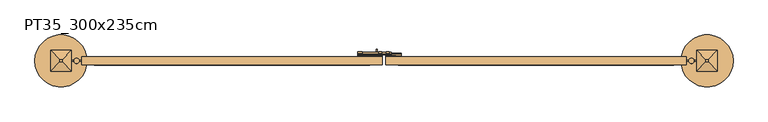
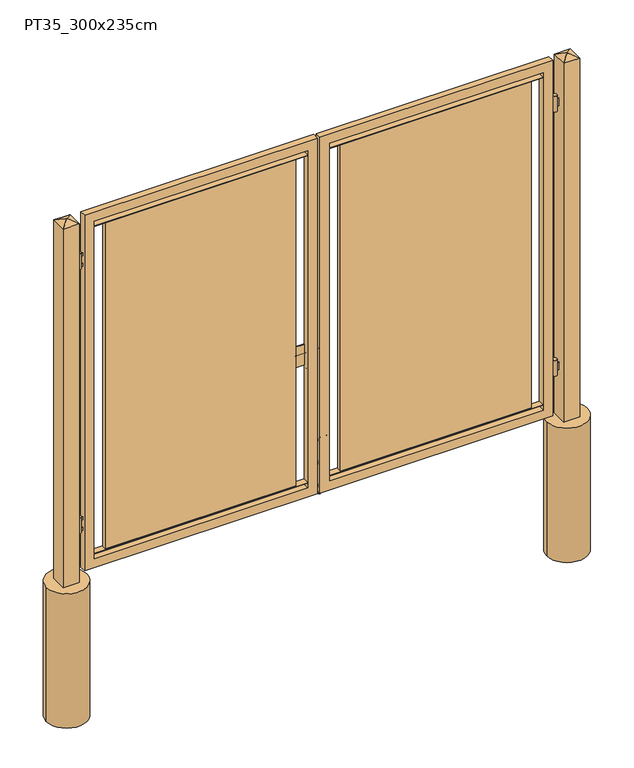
"""IFC4 building model written with IfcOpenShell, lengths in millimetres: door geometry, FDE_PT34_PT35_Portão_UsoExterno_GradilEletrofundido_2Folhas : PT35_300x235cm."""

from ifc_helpers import new_model, si_unit, point, frame, frame_2d, origin, place, context, project, spatial, polyline, circle_curve, ellipse_curve, trimmed, segment, composite_curve, outline, extrude, faceted_brep, source, transform, mapped, element, save
from ifc_brep_helpers import plane_surface, cylinder_surface, revolved_surface, advanced_brep


def pt35_300x235cm_00b904e5(model_context):
    return source(origin(), model_context, "Body", "SolidModel", [
        extrude(outline(composite_curve([segment(polyline([(26.15, 25.0), (7.5, 25.0), (7.5, 27.0), (24.15, 27.0), (24.15, 31.25)]), True, "CONTINUOUS"), segment(trimmed(circle_curve(frame_2d((32.5, 31.25)), 8.35), [point((24.15, 31.25))], [point((40.8382427, 31.6929536))], False, "CARTESIAN"), True, "CONTINUOUS"), segment(polyline([(40.8382427, 31.6929536), (40.8382427, 27.0), (57.5, 27.0), (57.5, 25.0), (38.8345317, 25.0), (38.8345317, 31.6929536)]), True, "CONTINUOUS"), segment(trimmed(circle_curve(frame_2d((32.5, 31.25)), 6.35), [point((38.8345317, 31.6929536))], [point((26.15, 31.25))], True, "CARTESIAN"), True, "CONTINUOUS"), segment(polyline([(26.15, 31.25), (26.15, 25.0)]), True, "CONTINUOUS")], self_intersect=False)), frame((0.0, 0.0, 320.0), z_axis=(0.0, 0.0, 1.0), x_axis=(1.0, 0.0, 0.0)), (0.0, 0.0, 1.0), 20.0),
        extrude(outline(composite_curve([segment(polyline([(26.15, 25.0), (7.5, 25.0), (7.5, 27.0), (24.15, 27.0), (24.15, 31.25)]), True, "CONTINUOUS"), segment(trimmed(circle_curve(frame_2d((32.5, 31.25)), 8.35), [point((24.15, 31.25))], [point((40.8382427, 31.6929536))], False, "CARTESIAN"), True, "CONTINUOUS"), segment(polyline([(40.8382427, 31.6929536), (40.8382427, 27.0), (57.5, 27.0), (57.5, 25.0), (38.8345317, 25.0), (38.8345317, 31.6929536)]), True, "CONTINUOUS"), segment(trimmed(circle_curve(frame_2d((32.5, 31.25)), 6.35), [point((38.8345317, 31.6929536))], [point((26.15, 31.25))], True, "CARTESIAN"), True, "CONTINUOUS"), segment(polyline([(26.15, 31.25), (26.15, 25.0)]), True, "CONTINUOUS")], self_intersect=False)), frame((0.0, 0.0, 170.0), z_axis=(0.0, 0.0, 1.0), x_axis=(1.0, 0.0, 0.0)), (0.0, 0.0, 1.0), 20.0),
        extrude(outline(composite_curve([segment(polyline([(26.15, 25.0), (7.5, 25.0), (7.5, 27.0), (24.15, 27.0), (24.15, 31.25)]), True, "CONTINUOUS"), segment(trimmed(circle_curve(frame_2d((32.5, 31.25)), 8.35), [point((24.15, 31.25))], [point((40.8382427, 31.6929536))], False, "CARTESIAN"), True, "CONTINUOUS"), segment(polyline([(40.8382427, 31.6929536), (40.8382427, 27.0), (57.5, 27.0), (57.5, 25.0), (38.8345317, 25.0), (38.8345317, 31.6929536)]), True, "CONTINUOUS"), segment(trimmed(circle_curve(frame_2d((32.5, 31.25)), 6.35), [point((38.8345317, 31.6929536))], [point((26.15, 31.25))], True, "CARTESIAN"), True, "CONTINUOUS"), segment(polyline([(26.15, 31.25), (26.15, 25.0)]), True, "CONTINUOUS")], self_intersect=False)), frame((0.0, 0.0, 20.0), z_axis=(0.0, 0.0, 1.0), x_axis=(1.0, 0.0, 0.0)), (0.0, 0.0, 1.0), 20.0),
        advanced_brep(
        [(26.15, 31.25, -20.0), (38.85, 31.25, -20.0), (38.85, 31.25, 343.65), (26.15, 31.25, 356.35), (82.5, 31.25, 356.35), (82.5, 31.25, 343.65)],
        [
            (0, 1, circle_curve(frame((32.5, 31.25, -20.0), z_axis=(0.0, 0.0, -1.0), x_axis=(1.0, 0.0, 0.0)), 6.35)),
            (1, 0, circle_curve(frame((32.5, 31.25, -20.0), z_axis=(0.0, 0.0, -1.0), x_axis=(1.0, 0.0, 0.0)), 6.35)),
            (1, 2),
            (2, 3, ellipse_curve(frame((32.5, 31.25, 350.0), z_axis=(-0.707106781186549, 0.0, -0.7071067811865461), x_axis=(0.7071067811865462, 0.0, -0.7071067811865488)), 8.9802561, 6.35)),
            (3, 0),
            (3, 2, ellipse_curve(frame((32.5, 31.25, 350.0), z_axis=(-0.707106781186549, 0.0, -0.7071067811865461), x_axis=(0.7071067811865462, 0.0, -0.7071067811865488)), 8.9802561, 6.35)),
            (4, 5, circle_curve(frame((82.5, 31.25, 350.0), z_axis=(1.0, 0.0, 0.0), x_axis=(0.0, 0.0, -1.0)), 6.35)),
            (5, 4, circle_curve(frame((82.5, 31.25, 350.0), z_axis=(1.0, 0.0, 0.0), x_axis=(0.0, 0.0, -1.0)), 6.35)),
            (2, 5),
            (4, 3),
        ],
        [
            plane_surface(frame((32.5, 31.25, -20.0), z_axis=(0.0, 0.0, -1.0), x_axis=(0.0, 1.0, 0.0))),
            cylinder_surface(frame((32.5, 31.25, -20.0), z_axis=(0.0, 0.0, -1.0), x_axis=(1.0, 0.0, 0.0)), 6.35),
            plane_surface(frame((82.5, 31.25, 350.0), z_axis=(1.0, 0.0, 0.0), x_axis=(0.0, 1.0, 0.0))),
            cylinder_surface(frame((32.5, 31.25, 350.0), z_axis=(-1.0, 0.0, 0.0), x_axis=(0.0, 0.0, -1.0)), 6.35),
        ],
        [
            (0, [[1, 2]]),
            (1, [[3, 4, 5, -2]]),
            (1, [[-5, 6, -3, -1]]),
            (2, [[7, 8]]),
            (3, [[9, -7, 10, -4]]),
            (3, [[-10, -8, -9, -6]]),
        ],
    ),
        extrude(outline(polyline([(57.5, 25.0), (57.5, 20.0), (7.5, 20.0), (7.5, 25.0), (57.5, 25.0)])), frame((0.0, 0.0, 20.0), z_axis=(0.0, 0.0, 1.0), x_axis=(1.0, 0.0, 0.0)), (0.0, 0.0, 1.0), 380.0),
        extrude(outline(polyline([(2075.0, 1477.5), (2095.0, 1477.5), (2095.0, 1450.0), (2075.0, 1450.0), (2075.0, 1472.5), (2025.0, 1472.5), (2025.0, 1450.0), (2005.0, 1450.0), (2005.0, 1477.5), (2025.0, 1477.5), (2025.0, 1500.0), (2075.0, 1500.0), (2075.0, 1477.5)])), frame((0.0, -2.5, 0.0), z_axis=(0.0, 1.0, 0.0), x_axis=(0.0, 0.0, 1.0)), (0.0, 0.0, 1.0), 5.0),
        extrude(outline(composite_curve([segment(trimmed(circle_curve(frame_2d((1475.0, 0.0)), 12.7), [point((1487.7, 0.0))], [point((1462.3, 0.0))], False, "CARTESIAN"), True, "CONTINUOUS"), segment(trimmed(circle_curve(frame_2d((1475.0, 0.0)), 12.7), [point((1462.3, 0.0))], [point((1487.7, 0.0))], False, "CARTESIAN"), True, "CONTINUOUS")], self_intersect=False)), frame((0.0, 0.0, 1999.2), z_axis=(0.0, 0.0, 1.0), x_axis=(1.0, 0.0, 0.0)), (0.0, 0.0, 1.0), 101.6),
        extrude(outline(polyline([(345.0, 1477.5), (365.0, 1477.5), (365.0, 1450.0), (345.0, 1450.0), (345.0, 1472.5), (295.0, 1472.5), (295.0, 1450.0), (275.0, 1450.0), (275.0, 1477.5), (295.0, 1477.5), (295.0, 1500.0), (345.0, 1500.0), (345.0, 1477.5)])), frame((0.0, -2.5, 0.0), z_axis=(0.0, 1.0, 0.0), x_axis=(0.0, 0.0, 1.0)), (0.0, 0.0, 1.0), 5.0),
        extrude(outline(composite_curve([segment(trimmed(circle_curve(frame_2d((1475.0, 0.0)), 12.7), [point((1487.7, 0.0))], [point((1462.3, 0.0))], False, "CARTESIAN"), True, "CONTINUOUS"), segment(trimmed(circle_curve(frame_2d((1475.0, 0.0)), 12.7), [point((1462.3, 0.0))], [point((1487.7, 0.0))], False, "CARTESIAN"), True, "CONTINUOUS")], self_intersect=False)), frame((0.0, 0.0, 269.2), z_axis=(0.0, 0.0, 1.0), x_axis=(1.0, 0.0, 0.0)), (0.0, 0.0, 1.0), 101.6),
        extrude(outline(polyline([(137.5, 13.3918139), (1320.0, 13.3918139), (1320.0, -13.3918139), (137.5, -13.3918139), (137.5, 13.3918139)])), frame((0.0, 0.0, 114.76), z_axis=(0.0, 0.0, 1.0), x_axis=(1.0, 0.0, 0.0)), (0.0, 0.0, 1.0), 2140.48),
        extrude(outline(polyline([(2350.0, 7.5), (20.0, 7.5), (20.0, 1450.0), (2350.0, 1450.0), (2350.0, 7.5)]), holes=[polyline([(2290.0, 67.5), (2290.0, 1390.0), (2260.0, 1390.0), (2260.0, 67.5), (2290.0, 67.5)]), polyline([(80.0, 67.5), (110.0, 67.5), (110.0, 1390.0), (80.0, 1390.0), (80.0, 67.5)]), polyline([(2255.24, 1390.0), (114.76, 1390.0), (114.76, 67.5), (2255.24, 67.5), (2255.24, 1390.0)])]), frame((0.0, -20.0, 0.0), z_axis=(0.0, 1.0, 0.0), x_axis=(0.0, 0.0, 1.0)), (0.0, 0.0, 1.0), 40.0),
        extrude(outline(polyline([(2075.0, -1477.5), (2075.0, -1500.0), (2025.0, -1500.0), (2025.0, -1477.5), (2005.0, -1477.5), (2005.0, -1450.0), (2025.0, -1450.0), (2025.0, -1472.5), (2075.0, -1472.5), (2075.0, -1450.0), (2095.0, -1450.0), (2095.0, -1477.5), (2075.0, -1477.5)])), frame((0.0, -2.5, 0.0), z_axis=(0.0, 1.0, 0.0), x_axis=(0.0, 0.0, 1.0)), (0.0, 0.0, 1.0), 5.0),
        extrude(outline(composite_curve([segment(trimmed(circle_curve(frame_2d((-1475.0, 0.0)), 12.7), [point((-1487.7, 0.0))], [point((-1462.3, 0.0))], False, "CARTESIAN"), True, "CONTINUOUS"), segment(trimmed(circle_curve(frame_2d((-1475.0, 0.0)), 12.7), [point((-1462.3, 0.0))], [point((-1487.7, 0.0))], False, "CARTESIAN"), True, "CONTINUOUS")], self_intersect=False)), frame((0.0, 0.0, 1999.2), z_axis=(0.0, 0.0, 1.0), x_axis=(1.0, 0.0, 0.0)), (0.0, 0.0, 1.0), 101.6),
        extrude(outline(polyline([(345.0, -1477.5), (345.0, -1500.0), (295.0, -1500.0), (295.0, -1477.5), (275.0, -1477.5), (275.0, -1450.0), (295.0, -1450.0), (295.0, -1472.5), (345.0, -1472.5), (345.0, -1450.0), (365.0, -1450.0), (365.0, -1477.5), (345.0, -1477.5)])), frame((0.0, -2.5, 0.0), z_axis=(0.0, 1.0, 0.0), x_axis=(0.0, 0.0, 1.0)), (0.0, 0.0, 1.0), 5.0),
        extrude(outline(composite_curve([segment(trimmed(circle_curve(frame_2d((-1475.0, 0.0)), 12.7), [point((-1487.7, 0.0))], [point((-1462.3, 0.0))], False, "CARTESIAN"), True, "CONTINUOUS"), segment(trimmed(circle_curve(frame_2d((-1475.0, 0.0)), 12.7), [point((-1462.3, 0.0))], [point((-1487.7, 0.0))], False, "CARTESIAN"), True, "CONTINUOUS")], self_intersect=False)), frame((0.0, 0.0, 269.2), z_axis=(0.0, 0.0, 1.0), x_axis=(1.0, 0.0, 0.0)), (0.0, 0.0, 1.0), 101.6),
        extrude(outline(polyline([(-137.5, 13.3918139), (-137.5, -13.3918139), (-1320.0, -13.3918139), (-1320.0, 13.3918139), (-137.5, 13.3918139)])), frame((0.0, 0.0, 114.76), z_axis=(0.0, 0.0, 1.0), x_axis=(1.0, 0.0, 0.0)), (0.0, 0.0, 1.0), 2140.48),
        extrude(outline(polyline([(-67.5, 20.0), (-67.5, 15.0), (-202.5, 15.0), (-202.5, 20.0), (-67.5, 20.0)])), frame((0.0, 0.0, 865.0), z_axis=(0.0, 0.0, 1.0), x_axis=(1.0, 0.0, 0.0)), (0.0, 0.0, 1.0), 135.0),
        extrude(outline(polyline([(2350.0, -7.5), (2350.0, -1450.0), (20.0, -1450.0), (20.0, -7.5), (2350.0, -7.5)]), holes=[polyline([(80.0, -67.5), (80.0, -1390.0), (110.0, -1390.0), (110.0, -67.5), (80.0, -67.5)]), polyline([(2255.24, -1390.0), (2255.24, -67.5), (114.76, -67.5), (114.76, -1390.0), (2255.24, -1390.0)]), polyline([(2290.0, -67.5), (2260.0, -67.5), (2260.0, -1390.0), (2290.0, -1390.0), (2290.0, -67.5)])]), frame((0.0, -20.0, 0.0), z_axis=(0.0, 1.0, 0.0), x_axis=(0.0, 0.0, 1.0)), (0.0, 0.0, 1.0), 40.0),
        advanced_brep(
        [(10.0, 34.7994019, 926.693163), (10.0, 34.8015861, 939.3931626), (10.0, 24.0, 939.3931626), (10.0, 24.0, 957.5), (10.0, 26.0, 957.5), (10.0, 26.0, 941.3931626), (10.0, 34.7972177, 941.3931626), (10.0, 34.7972177, 924.6828756), (10.0, 26.0, 924.6828756), (10.0, 26.0, 907.5), (10.0, 24.0, 907.5), (10.0, 24.0, 926.6828756), (25.0, 34.7972177, 926.6828756), (25.0, 24.0, 926.6828756), (25.0, 24.0, 907.5), (25.0, 26.0, 907.5), (25.0, 26.0, 924.6828756), (25.0, 34.7972177, 924.6828756), (25.0, 34.7972177, 941.3828756), (25.0, 26.0, 941.3931626), (25.0, 26.0, 957.5), (25.0, 24.0, 957.5), (25.0, 24.0, 939.3931626), (25.0, 34.8015861, 939.3931626)],
        [
            (0, 1, circle_curve(frame((10.0, 34.7994019, 933.043163), z_axis=(1.0, 0.0, 0.0), x_axis=(0.0, 0.0, -1.0)), 6.35)),
            (1, 2),
            (2, 3),
            (3, 4),
            (4, 5),
            (5, 6),
            (6, 7, circle_curve(frame((10.0, 34.7972177, 933.0328756), z_axis=(-1.0, 0.0, 0.0), x_axis=(0.0, 0.0, -1.0)), 8.35)),
            (7, 8),
            (8, 9),
            (9, 10),
            (10, 11),
            (11, 0),
            (12, 13),
            (13, 14),
            (14, 15),
            (15, 16),
            (16, 17),
            (17, 18, circle_curve(frame((25.0, 34.7972177, 933.0328756), z_axis=(1.0, 0.0, 0.0), x_axis=(0.0, 0.0, -1.0)), 8.35)),
            (18, 19),
            (19, 20),
            (20, 21),
            (21, 22),
            (22, 23),
            (23, 12, circle_curve(frame((25.0, 34.7994019, 933.043163), z_axis=(-1.0, 0.0, 0.0), x_axis=(0.0, 0.0, -1.0)), 6.35)),
            (23, 1),
            (0, 12),
            (22, 2),
            (21, 3),
            (20, 4),
            (19, 5),
            (18, 6),
            (17, 7),
            (16, 8),
            (15, 9),
            (14, 10),
            (13, 11),
        ],
        [
            plane_surface(frame((10.0, 34.7994019, 926.693163), z_axis=(-1.0, 0.0, 0.0), x_axis=(0.0, -1.0, 0.0))),
            plane_surface(frame((25.0, 34.7994019, 926.693163), z_axis=(1.0, 0.0, 0.0), x_axis=(0.0, 1.0, 0.0))),
            revolved_surface(polyline([(10.0, 34.7994019, 926.693163), (25.0, 34.7994019, 926.693163)]), (10.0, 34.7994019, 933.043163), (-1.0, 0.0, 0.0)),
            plane_surface(frame((25.0, 34.8015861, 939.3931626), z_axis=(0.0, 0.0, -1.0), x_axis=(-1.0, 0.0, 0.0))),
            plane_surface(frame((25.0, 24.0, 939.3931626), z_axis=(0.0, -1.0, 0.0), x_axis=(-1.0, 0.0, 0.0))),
            plane_surface(frame((25.0, 24.0, 957.5), z_axis=(0.0, 0.0, 1.0), x_axis=(-1.0, 0.0, 0.0))),
            plane_surface(frame((25.0, 26.0, 957.5), z_axis=(0.0, 1.0, 0.0), x_axis=(-1.0, 0.0, 0.0))),
            plane_surface(frame((25.0, 26.0, 941.3931626), z_axis=(0.0, 0.0, 1.0), x_axis=(-1.0, 0.0, 0.0))),
            cylinder_surface(frame((10.0, 34.7972177, 933.0328756), z_axis=(1.0, 0.0, 0.0), x_axis=(0.0, 0.0, -1.0)), 8.35),
            plane_surface(frame((25.0, 34.7972177, 924.6828756), z_axis=(0.0, 0.0, -1.0), x_axis=(-1.0, 0.0, 0.0))),
            plane_surface(frame((25.0, 26.0, 924.6828756), z_axis=(0.0, 1.0, 0.0), x_axis=(-1.0, 0.0, 0.0))),
            plane_surface(frame((25.0, 26.0, 907.5), z_axis=(0.0, 0.0, -1.0), x_axis=(-1.0, 0.0, 0.0))),
            plane_surface(frame((25.0, 24.0, 907.5), z_axis=(0.0, -1.0, 0.0), x_axis=(-1.0, 0.0, 0.0))),
            plane_surface(frame((25.0, 24.0, 926.6828756), z_axis=(0.0, 0.0, 1.0), x_axis=(-1.0, 0.0, 0.0))),
        ],
        [
            (0, [[1, 2, 3, 4, 5, 6, 7, 8, 9, 10, 11, 12]]),
            (1, [[13, 14, 15, 16, 17, 18, 19, 20, 21, 22, 23, 24]]),
            (2, [[25, -1, 26, -24]]),
            (3, [[27, -2, -25, -23]]),
            (4, [[28, -3, -27, -22]]),
            (5, [[29, -4, -28, -21]]),
            (6, [[30, -5, -29, -20]]),
            (7, [[31, -6, -30, -19]]),
            (8, [[32, -7, -31, -18]]),
            (9, [[33, -8, -32, -17]]),
            (10, [[34, -9, -33, -16]]),
            (11, [[35, -10, -34, -15]]),
            (12, [[36, -11, -35, -14]]),
            (13, [[-26, -12, -36, -13]]),
        ],
    ),
        advanced_brep(
        [(-40.0, 32.8935961, 923.839746), (-38.1835656, 32.8935961, 926.9859025), (-31.8164344, 32.8935961, 926.9859025), (-30.0, 32.8935961, 923.839746), (-30.0, 32.8935961, 870.3785853), (-23.8943503, 32.8935961, 857.2849773), (-23.8943503, 32.8935961, 770.4855504), (-46.1056497, 32.8935961, 770.4855504), (-46.1056497, 32.8935961, 857.2849773), (-40.0, 32.8935961, 870.3785853), (-28.8943503, 32.8935961, 819.8525354), (-41.1056497, 32.8935961, 819.8525354), (-41.1056497, 32.8935961, 784.6450732), (-28.8943503, 32.8935961, 784.6450732), (-30.0, 31.380621, 923.839746), (-32.2241274, 31.380621, 927.6920475), (-37.7758726, 31.380621, 927.6920475), (-40.0, 31.380621, 923.839746), (-40.0, 31.380621, 870.3785853), (-46.1056497, 31.380621, 857.2849773), (-46.1056497, 31.380621, 770.4855504), (-23.8943503, 31.380621, 770.4855504), (-23.8943503, 31.380621, 857.2849773), (-30.0, 31.380621, 870.3785853), (-28.8943503, 31.380621, 819.8525354), (-28.8943503, 31.380621, 784.6450732), (-41.1056497, 31.380621, 784.6450732), (-41.1056497, 31.380621, 819.8525354), (34.8207606, 34.7994019, 939.393163), (34.8207606, 34.7994019, 926.693163), (-125.0, 34.7994019, 939.393163), (-125.0, 34.7994019, 926.693163)],
        [
            (0, 1),
            (1, 2),
            (2, 3),
            (3, 4),
            (4, 5),
            (5, 6),
            (6, 7),
            (7, 8),
            (8, 9),
            (9, 0),
            (10, 11),
            (11, 12),
            (12, 13),
            (13, 10),
            (14, 15),
            (15, 16),
            (16, 17),
            (17, 18),
            (18, 19),
            (19, 20),
            (20, 21),
            (21, 22),
            (22, 23),
            (23, 14),
            (24, 25),
            (25, 26),
            (26, 27),
            (27, 24),
            (9, 18),
            (17, 0),
            (8, 19),
            (7, 20),
            (6, 21),
            (5, 22),
            (4, 23),
            (3, 14),
            (13, 25),
            (24, 10),
            (12, 26),
            (11, 27),
            (28, 29, circle_curve(frame((34.8207606, 34.7994019, 933.043163), z_axis=(1.0, 0.0, 0.0), x_axis=(0.0, 0.0, -1.0)), 6.35)),
            (29, 28, circle_curve(frame((34.8207606, 34.7994019, 933.043163), z_axis=(1.0, 0.0, 0.0), x_axis=(0.0, 0.0, -1.0)), 6.35)),
            (30, 31, circle_curve(frame((-125.0, 34.7994019, 933.043163), z_axis=(-1.0, 0.0, 0.0), x_axis=(0.0, 0.0, -1.0)), 6.35)),
            (31, 30, circle_curve(frame((-125.0, 34.7994019, 933.043163), z_axis=(-1.0, 0.0, 0.0), x_axis=(0.0, 0.0, -1.0)), 6.35)),
            (29, 31),
            (30, 28),
            (1, 16, ellipse_curve(frame((-34.6864047, 34.7994019, 933.043163), z_axis=(-0.8660254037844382, 0.0, 0.500000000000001), x_axis=(0.5000000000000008, 0.0, 0.8660254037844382)), 7.3323484, 6.35)),
            (15, 2, ellipse_curve(frame((-35.3135953, 34.7994019, 933.043163), z_axis=(0.8660254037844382, 0.0, 0.5000000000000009), x_axis=(0.5000000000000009, 0.0, -0.8660254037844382)), 7.3323484, 6.35)),
        ],
        [
            plane_surface(frame((-40.0, 32.8935961, 927.5), z_axis=(0.0, 1.0, 0.0), x_axis=(0.0, 0.0, -1.0))),
            plane_surface(frame((-40.0, 31.380621, 927.5), z_axis=(0.0, -1.0, 0.0), x_axis=(0.0, 0.0, 1.0))),
            plane_surface(frame((-40.0, 32.8935961, 923.839746), z_axis=(-1.0, 0.0, 0.0), x_axis=(0.0, -1.0, 0.0))),
            plane_surface(frame((-40.0, 32.8935961, 870.3785853), z_axis=(-0.9063077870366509, 0.0, 0.4226182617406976), x_axis=(0.0, -1.0, 0.0))),
            plane_surface(frame((-46.1056497, 32.8935961, 857.2849773), z_axis=(-1.0, 0.0, 0.0), x_axis=(0.0, -1.0, 0.0))),
            plane_surface(frame((-46.1056497, 32.8935961, 770.4855504), z_axis=(0.0, 0.0, -1.0), x_axis=(0.0, -1.0, 0.0))),
            plane_surface(frame((-23.8943503, 32.8935961, 770.4855504), z_axis=(1.0, 0.0, 0.0), x_axis=(0.0, -1.0, 0.0))),
            plane_surface(frame((-23.8943503, 32.8935961, 857.2849773), z_axis=(0.9063077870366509, 0.0, 0.42261826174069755), x_axis=(0.0, -1.0, 0.0))),
            plane_surface(frame((-30.0, 32.8935961, 870.3785853), z_axis=(1.0, 0.0, 0.0), x_axis=(0.0, -1.0, 0.0))),
            plane_surface(frame((-28.8943503, 32.8935961, 819.8525354), z_axis=(-1.0, 0.0, 0.0), x_axis=(0.0, -1.0, 0.0))),
            plane_surface(frame((-28.8943503, 32.8935961, 784.6450732), z_axis=(0.0, 0.0, 1.0), x_axis=(0.0, -1.0, 0.0))),
            plane_surface(frame((-41.1056497, 32.8935961, 784.6450732), z_axis=(1.0, 0.0, 0.0), x_axis=(0.0, -1.0, 0.0))),
            plane_surface(frame((-41.1056497, 32.8935961, 819.8525354), z_axis=(0.0, 0.0, -1.0), x_axis=(0.0, -1.0, 0.0))),
            plane_surface(frame((34.8207606, 34.7994019, 926.693163), z_axis=(1.0, 0.0, 0.0), x_axis=(0.0, -1.0, 0.0))),
            plane_surface(frame((-125.0, 34.7994019, 926.693163), z_axis=(-1.0, 0.0, 0.0), x_axis=(0.0, 1.0, 0.0))),
            cylinder_surface(frame((-125.0, 34.7994019, 933.043163), z_axis=(1.0, 0.0, 0.0), x_axis=(0.0, 0.0, -1.0)), 6.35),
            plane_surface(frame((-30.0, 32.8935961, 923.839746), z_axis=(0.8660254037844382, 0.0, 0.5000000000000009), x_axis=(0.0, -1.0, 0.0))),
            plane_surface(frame((-35.0, 32.8935961, 932.5), z_axis=(-0.8660254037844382, 0.0, 0.500000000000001), x_axis=(0.0, -1.0, 0.0))),
        ],
        [
            (0, [[1, 2, 3, 4, 5, 6, 7, 8, 9, 10], [11, 12, 13, 14]]),
            (1, [[15, 16, 17, 18, 19, 20, 21, 22, 23, 24], [25, 26, 27, 28]]),
            (2, [[29, -18, 30, -10]]),
            (3, [[31, -19, -29, -9]]),
            (4, [[32, -20, -31, -8]]),
            (5, [[33, -21, -32, -7]]),
            (6, [[34, -22, -33, -6]]),
            (7, [[35, -23, -34, -5]]),
            (8, [[36, -24, -35, -4]]),
            (9, [[37, -25, 38, -14]]),
            (10, [[39, -26, -37, -13]]),
            (11, [[40, -27, -39, -12]]),
            (12, [[-38, -28, -40, -11]]),
            (13, [[41, 42]]),
            (14, [[43, 44]]),
            (15, [[45, -43, 46, -42]]),
            (15, [[-46, -44, -45, -41], [47, -16, 48, -2]]),
            (16, [[-3, -48, -15, -36]]),
            (17, [[-17, -47, -1, -30]]),
        ],
    ),
        extrude(outline(polyline([(-8.3641027, 24.0), (-8.3641027, 20.0), (-58.3641027, 20.0), (-58.3641027, 24.0), (-8.3641027, 24.0)])), frame((0.0, 0.0, 787.5), z_axis=(0.0, 0.0, 1.0), x_axis=(1.0, 0.0, 0.0)), (0.0, 0.0, 1.0), 30.0),
        advanced_brep(
        [(-25.0, 34.7972177, 924.6828756), (-25.0, 26.0, 924.6828756), (-25.0, 26.0, 907.5), (-25.0, 24.0, 907.5), (-25.0, 24.0, 926.6828756), (-25.0, 34.7972177, 926.6828756), (-25.0, 34.8015861, 939.3931626), (-25.0, 24.0, 939.3931626), (-25.0, 24.0, 957.5), (-25.0, 26.0, 957.5), (-25.0, 26.0, 941.3931626), (-25.0, 34.7972177, 941.3931626), (-10.0, 34.7972177, 924.6828756), (-10.0, 34.7972177, 941.3828756), (-10.0, 26.0, 941.3931626), (-10.0, 26.0, 957.5), (-10.0, 24.0, 957.5), (-10.0, 24.0, 939.3931626), (-10.0, 34.8015861, 939.3931626), (-10.0, 34.7994019, 926.693163), (-10.0, 24.0, 926.6828756), (-10.0, 24.0, 907.5), (-10.0, 26.0, 907.5), (-10.0, 26.0, 924.6828756)],
        [
            (0, 1),
            (1, 2),
            (2, 3),
            (3, 4),
            (4, 5),
            (5, 6, circle_curve(frame((-25.0, 34.7994019, 933.043163), z_axis=(1.0, 0.0, 0.0), x_axis=(0.0, 0.0, -1.0)), 6.35)),
            (6, 7),
            (7, 8),
            (8, 9),
            (9, 10),
            (10, 11),
            (11, 0, circle_curve(frame((-25.0, 34.7972177, 933.0328756), z_axis=(-1.0, 0.0, 0.0), x_axis=(0.0, 0.0, -1.0)), 8.35)),
            (12, 13, circle_curve(frame((-10.0, 34.7972177, 933.0328756), z_axis=(1.0, 0.0, 0.0), x_axis=(0.0, 0.0, -1.0)), 8.35)),
            (13, 14),
            (14, 15),
            (15, 16),
            (16, 17),
            (17, 18),
            (18, 19, circle_curve(frame((-10.0, 34.7994019, 933.043163), z_axis=(-1.0, 0.0, 0.0), x_axis=(0.0, 0.0, -1.0)), 6.35)),
            (19, 20),
            (20, 21),
            (21, 22),
            (22, 23),
            (23, 12),
            (23, 1),
            (0, 12),
            (22, 2),
            (21, 3),
            (20, 4),
            (19, 5),
            (18, 6),
            (17, 7),
            (16, 8),
            (15, 9),
            (14, 10),
            (13, 11),
        ],
        [
            plane_surface(frame((-25.0, 34.7972177, 924.6828756), z_axis=(-1.0, 0.0, 0.0), x_axis=(0.0, 1.0, 0.0))),
            plane_surface(frame((-10.0, 34.7972177, 924.6828756), z_axis=(1.0, 0.0, 0.0), x_axis=(0.0, -1.0, 0.0))),
            plane_surface(frame((-10.0, 34.7972177, 924.6828756), z_axis=(0.0, 0.0, -1.0), x_axis=(-1.0, 0.0, 0.0))),
            plane_surface(frame((-10.0, 26.0, 924.6828756), z_axis=(0.0, 1.0, 0.0), x_axis=(-1.0, 0.0, 0.0))),
            plane_surface(frame((-10.0, 26.0, 907.5), z_axis=(0.0, 0.0, -1.0), x_axis=(-1.0, 0.0, 0.0))),
            plane_surface(frame((-10.0, 24.0, 907.5), z_axis=(0.0, -1.0, 0.0), x_axis=(-1.0, 0.0, 0.0))),
            plane_surface(frame((-10.0, 24.0, 926.6828756), z_axis=(0.0, 0.0, 1.0), x_axis=(-1.0, 0.0, 0.0))),
            revolved_surface(polyline([(-25.0, 34.7994019, 926.693163), (-10.0, 34.7994019, 926.693163)]), (-25.0, 34.7994019, 933.043163), (-1.0, 0.0, 0.0)),
            plane_surface(frame((-10.0, 34.8015861, 939.3931626), z_axis=(0.0, 0.0, -1.0), x_axis=(-1.0, 0.0, 0.0))),
            plane_surface(frame((-10.0, 24.0, 939.3931626), z_axis=(0.0, -1.0, 0.0), x_axis=(-1.0, 0.0, 0.0))),
            plane_surface(frame((-10.0, 24.0, 957.5), z_axis=(0.0, 0.0, 1.0), x_axis=(-1.0, 0.0, 0.0))),
            plane_surface(frame((-10.0, 26.0, 957.5), z_axis=(0.0, 1.0, 0.0), x_axis=(-1.0, 0.0, 0.0))),
            plane_surface(frame((-10.0, 26.0, 941.3931626), z_axis=(0.0, 0.0, 1.0), x_axis=(-1.0, 0.0, 0.0))),
            cylinder_surface(frame((-25.0, 34.7972177, 933.0328756), z_axis=(1.0, 0.0, 0.0), x_axis=(0.0, 0.0, -1.0)), 8.35),
        ],
        [
            (0, [[1, 2, 3, 4, 5, 6, 7, 8, 9, 10, 11, 12]]),
            (1, [[13, 14, 15, 16, 17, 18, 19, 20, 21, 22, 23, 24]]),
            (2, [[25, -1, 26, -24]]),
            (3, [[27, -2, -25, -23]]),
            (4, [[28, -3, -27, -22]]),
            (5, [[29, -4, -28, -21]]),
            (6, [[30, -5, -29, -20]]),
            (7, [[31, -6, -30, -19]]),
            (8, [[32, -7, -31, -18]]),
            (9, [[33, -8, -32, -17]]),
            (10, [[34, -9, -33, -16]]),
            (11, [[35, -10, -34, -15]]),
            (12, [[36, -11, -35, -14]]),
            (13, [[-26, -12, -36, -13]]),
        ],
    ),
        advanced_brep(
        [(-125.0, 34.7972177, 926.6828756), (-125.0, 34.7972177, 939.3828756), (-125.0, 24.0, 939.3931626), (-125.0, 24.0, 957.5), (-125.0, 26.0, 957.5), (-125.0, 26.0, 941.3931626), (-125.0, 34.7972177, 941.3931626), (-125.0, 34.7972177, 924.6828756), (-125.0, 26.0, 924.6828756), (-125.0, 26.0, 907.5), (-125.0, 24.0, 907.5), (-125.0, 24.0, 926.6828756), (-105.0, 34.7972177, 926.6828756), (-105.0, 24.0, 926.6828756), (-105.0, 24.0, 907.5), (-105.0, 26.0, 907.5), (-105.0, 26.0, 924.6828756), (-105.0, 34.7972177, 924.6828756), (-105.0, 34.7972177, 941.3828756), (-105.0, 26.0, 941.3931626), (-105.0, 26.0, 957.5), (-105.0, 24.0, 957.5), (-105.0, 24.0, 939.3931626), (-105.0, 34.7972177, 939.3931626)],
        [
            (0, 1, circle_curve(frame((-125.0, 34.7972177, 933.0328756), z_axis=(1.0, 0.0, 0.0), x_axis=(0.0, 0.0, -1.0)), 6.35)),
            (1, 2),
            (2, 3),
            (3, 4),
            (4, 5),
            (5, 6),
            (6, 7, circle_curve(frame((-125.0, 34.7972177, 933.0328756), z_axis=(-1.0, 0.0, 0.0), x_axis=(0.0, 0.0, -1.0)), 8.35)),
            (7, 8),
            (8, 9),
            (9, 10),
            (10, 11),
            (11, 0),
            (12, 13),
            (13, 14),
            (14, 15),
            (15, 16),
            (16, 17),
            (17, 18, circle_curve(frame((-105.0, 34.7972177, 933.0328756), z_axis=(1.0, 0.0, 0.0), x_axis=(0.0, 0.0, -1.0)), 8.35)),
            (18, 19),
            (19, 20),
            (20, 21),
            (21, 22),
            (22, 23),
            (23, 12, circle_curve(frame((-105.0, 34.7972177, 933.0328756), z_axis=(-1.0, 0.0, 0.0), x_axis=(0.0, 0.0, -1.0)), 6.35)),
            (23, 1),
            (0, 12),
            (20, 4),
            (3, 21),
            (19, 5),
            (15, 9),
            (8, 16),
            (14, 10),
            (22, 2),
            (18, 6),
            (17, 7),
            (13, 11),
        ],
        [
            plane_surface(frame((-125.0, 34.7972177, 926.6828756), z_axis=(-1.0, 0.0, 0.0), x_axis=(0.0, -1.0, 0.0))),
            plane_surface(frame((-105.0, 34.7972177, 926.6828756), z_axis=(1.0, 0.0, 0.0), x_axis=(0.0, 1.0, 0.0))),
            revolved_surface(polyline([(-125.0, 34.7972177, 926.6828756), (-105.0, 34.7972177, 926.6828756)]), (-125.0, 34.7972177, 933.0328756), (-1.0, 0.0, 0.0)),
            plane_surface(frame((-105.0, 24.0, 957.5), z_axis=(0.0, 0.0, 1.0), x_axis=(-1.0, 0.0, 0.0))),
            plane_surface(frame((-105.0, 26.0, 957.5), z_axis=(0.0, 1.0, 0.0), x_axis=(-1.0, 0.0, 0.0))),
            plane_surface(frame((-105.0, 26.0, 924.6828756), z_axis=(0.0, 1.0, 0.0), x_axis=(-1.0, 0.0, 0.0))),
            plane_surface(frame((-105.0, 26.0, 907.5), z_axis=(0.0, 0.0, -1.0), x_axis=(-1.0, 0.0, 0.0))),
            plane_surface(frame((-105.0, 34.7972177, 939.3931626), z_axis=(0.0, 0.0, -1.0), x_axis=(-1.0, 0.0, 0.0))),
            plane_surface(frame((-105.0, 24.0, 939.3931626), z_axis=(0.0, -1.0, 0.0), x_axis=(-1.0, 0.0, 0.0))),
            plane_surface(frame((-105.0, 26.0, 941.3931626), z_axis=(0.0, 0.0, 1.0), x_axis=(-1.0, 0.0, 0.0))),
            cylinder_surface(frame((-125.0, 34.7972177, 933.0328756), z_axis=(1.0, 0.0, 0.0), x_axis=(0.0, 0.0, -1.0)), 8.35),
            plane_surface(frame((-105.0, 34.7972177, 924.6828756), z_axis=(0.0, 0.0, -1.0), x_axis=(-1.0, 0.0, 0.0))),
            plane_surface(frame((-105.0, 24.0, 907.5), z_axis=(0.0, -1.0, 0.0), x_axis=(-1.0, 0.0, 0.0))),
            plane_surface(frame((-105.0, 24.0, 926.6828756), z_axis=(0.0, 0.0, 1.0), x_axis=(-1.0, 0.0, 0.0))),
        ],
        [
            (0, [[1, 2, 3, 4, 5, 6, 7, 8, 9, 10, 11, 12]]),
            (1, [[13, 14, 15, 16, 17, 18, 19, 20, 21, 22, 23, 24]]),
            (2, [[25, -1, 26, -24]]),
            (3, [[27, -4, 28, -21]]),
            (4, [[29, -5, -27, -20]]),
            (5, [[30, -9, 31, -16]]),
            (6, [[32, -10, -30, -15]]),
            (7, [[33, -2, -25, -23]]),
            (8, [[-28, -3, -33, -22]]),
            (9, [[34, -6, -29, -19]]),
            (10, [[35, -7, -34, -18]]),
            (11, [[-31, -8, -35, -17]]),
            (12, [[36, -11, -32, -14]]),
            (13, [[-26, -12, -36, -13]]),
        ],
    ),
        extrude(outline(polyline([(-10.0, 24.0), (-10.0, 20.0), (-125.0, 20.0), (-125.0, 24.0), (-10.0, 24.0)])), frame((0.0, 0.0, 907.5), z_axis=(0.0, 0.0, 1.0), x_axis=(1.0, 0.0, 0.0)), (0.0, 0.0, 1.0), 50.0),
        extrude(outline(polyline([(55.6666689, 788.9597108), (24.0, 788.9597108), (24.0, 816.2609972), (55.6666689, 816.2609972), (55.6666689, 788.9597108)]), holes=[composite_curve([segment(trimmed(circle_curve(frame_2d((43.2209778, 802.9403392)), 9.0), [point((43.2209778, 811.9403392))], [point((43.2209778, 793.9403392))], True, "CARTESIAN"), True, "CONTINUOUS"), segment(trimmed(circle_curve(frame_2d((43.2209778, 802.9403392)), 9.0), [point((43.2209778, 793.9403392))], [point((43.2209778, 811.9403392))], True, "CARTESIAN"), True, "CONTINUOUS")], self_intersect=False)]), frame((-36.6056497, 0.0, 0.0), z_axis=(1.0, 0.0, 0.0), x_axis=(0.0, 1.0, 0.0)), (0.0, 0.0, 1.0), 3.2112994),
        extrude(outline(composite_curve([segment(trimmed(circle_curve(frame_2d((1550.0, 0.0)), 125.0), [point((1425.0, 0.0))], [point((1675.0, 0.0))], False, "CARTESIAN"), True, "CONTINUOUS"), segment(trimmed(circle_curve(frame_2d((1550.0, 0.0)), 125.0), [point((1675.0, 0.0))], [point((1425.0, 0.0))], False, "CARTESIAN"), True, "CONTINUOUS")], self_intersect=False)), frame((0.0, 0.0, -900.0), z_axis=(0.0, 0.0, 1.0), x_axis=(1.0, 0.0, 0.0)), (0.0, 0.0, 1.0), 880.0),
        extrude(outline(composite_curve([segment(trimmed(circle_curve(frame_2d((-1550.0, 0.0)), 125.0), [point((-1675.0, 0.0))], [point((-1425.0, 0.0))], False, "CARTESIAN"), True, "CONTINUOUS"), segment(trimmed(circle_curve(frame_2d((-1550.0, 0.0)), 125.0), [point((-1425.0, 0.0))], [point((-1675.0, 0.0))], False, "CARTESIAN"), True, "CONTINUOUS")], self_intersect=False)), frame((0.0, 0.0, -900.0), z_axis=(0.0, 0.0, 1.0), x_axis=(1.0, 0.0, 0.0)), (0.0, 0.0, 1.0), 880.0),
        faceted_brep([(-1500.0, -50.0, -20.0), (-1600.0, -50.0, -20.0), (-1600.0, 50.0, -20.0), (-1500.0, 50.0, -20.0), (-1503.0, -47.0, -20.0), (-1503.0, 47.0, -20.0), (-1597.0, 47.0, -20.0), (-1597.0, -47.0, -20.0), (-1500.0, 50.0, 2330.0), (-1500.0, -50.0, 2330.0), (-1600.0, 50.0, 2330.0), (-1600.0, -50.0, 2330.0), (-1597.0, -47.0, 2330.0), (-1503.0, -47.0, 2330.0), (-1597.0, 47.0, 2330.0), (-1503.0, 47.0, 2330.0), (-1545.0, -5.0, 2350.0), (-1545.0, 5.0, 2350.0), (-1555.0, 5.0, 2350.0), (-1555.0, -5.0, 2350.0)], [[[0, 1, 2, 3], [4, 5, 6, 7]], [[3, 8, 9, 0]], [[2, 10, 8, 3]], [[1, 11, 10, 2]], [[0, 9, 11, 1]], [[7, 12, 13, 4]], [[6, 14, 12, 7]], [[5, 15, 14, 6]], [[4, 13, 15, 5]], [[16, 17, 18, 19]], [[13, 12, 14, 15]], [[19, 11, 9, 16]], [[18, 10, 11, 19]], [[17, 8, 10, 18]], [[16, 9, 8, 17]]]),
        faceted_brep([(1600.0, -50.0, -20.0), (1500.0, -50.0, -20.0), (1500.0, 50.0, -20.0), (1600.0, 50.0, -20.0), (1597.0, -47.0, -20.0), (1597.0, 47.0, -20.0), (1503.0, 47.0, -20.0), (1503.0, -47.0, -20.0), (1600.0, 50.0, 2330.0), (1600.0, -50.0, 2330.0), (1500.0, 50.0, 2330.0), (1500.0, -50.0, 2330.0), (1503.0, -47.0, 2330.0), (1597.0, -47.0, 2330.0), (1503.0, 47.0, 2330.0), (1597.0, 47.0, 2330.0), (1545.0, -5.0, 2350.0), (1555.0, -5.0, 2350.0), (1555.0, 5.0, 2350.0), (1545.0, 5.0, 2350.0)], [[[0, 1, 2, 3], [4, 5, 6, 7]], [[3, 8, 9, 0]], [[2, 10, 8, 3]], [[1, 11, 10, 2]], [[0, 9, 11, 1]], [[7, 12, 13, 4]], [[6, 14, 12, 7]], [[5, 15, 14, 6]], [[4, 13, 15, 5]], [[16, 17, 18, 19]], [[13, 12, 14, 15]], [[16, 11, 9, 17]], [[17, 9, 8, 18]], [[18, 8, 10, 19]], [[19, 10, 11, 16]]]),
    ])


if __name__ == "__main__":
    model = new_model("IFC4")
    model_context = context("Model", 3, world=origin())
    ifc_project = project(units=[si_unit("LENGTHUNIT", "METRE", prefix="MILLI")], contexts=[model_context])
    site = spatial("IfcSite", under=ifc_project)
    building = spatial("IfcBuilding", under=site)
    placement = place(None, origin())
    pt35_300x235cm_shape = pt35_300x235cm_00b904e5(model_context)
    element("IfcDoor", 1, ObjectType="FDE_PT34_PT35_Portão_UsoExterno_GradilEletrofundido_2Folhas : PT35_300x235cm", at=placement, inside=building, context=model_context, shape_type="MappedRepresentation", body=[
        mapped(pt35_300x235cm_shape, transform((0.0, 0.0, 0.0), x_axis=(1.0, 0.0, 0.0), y_axis=(0.0, 1.0, 0.0), z_axis=(0.0, 0.0, 1.0))),
    ])
    save(model, "model.ifc")
